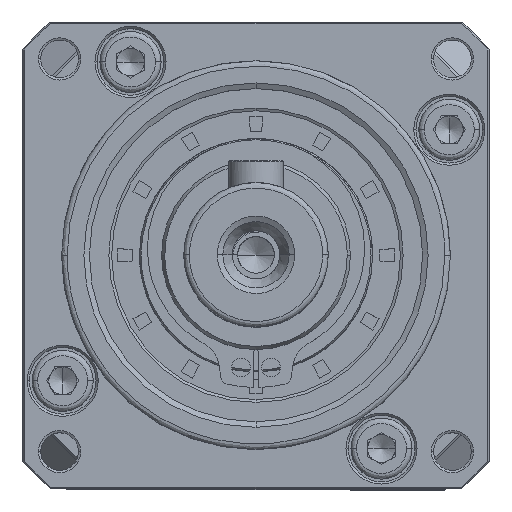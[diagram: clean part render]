
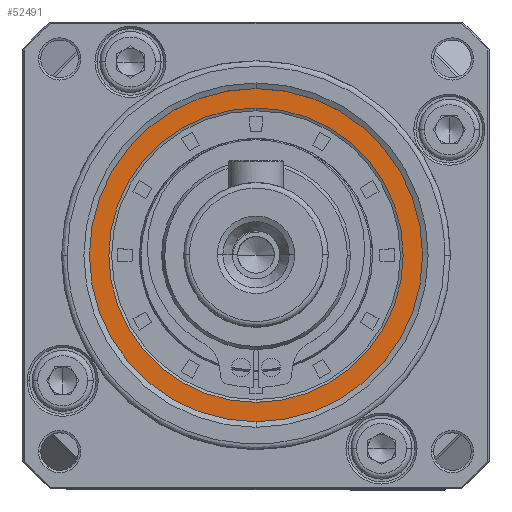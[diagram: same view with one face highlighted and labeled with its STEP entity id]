
A CAD part, top view. The second image highlights one B-rep face of the part: STEP entity #52491.
In plain terms, the highlighted planar face has unit normal (0, 0, 1).
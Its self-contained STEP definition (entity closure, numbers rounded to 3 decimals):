
#28 = CARTESIAN_POINT ( 'NONE',  ( 44.369, 25.708, 86.043 ) ) ;
#284 = CARTESIAN_POINT ( 'NONE',  ( 29.369, 25.708, 86.043 ) ) ;
#1482 = EDGE_CURVE ( 'NONE', #94590, #58060, #5186, .T. ) ;
#3234 = AXIS2_PLACEMENT_3D ( 'NONE', #13447, #117479, #54237 ) ;
#5186 = CIRCLE ( 'NONE', #58585, 13.25 ) ;
#8783 = ORIENTED_EDGE ( 'NONE', *, *, #32855, .T. ) ;
#10241 = DIRECTION ( 'NONE',  ( 0., -1., 0. ) ) ;
#10390 = CARTESIAN_POINT ( 'NONE',  ( 29.369, 25.708, 86.043 ) ) ;
#13447 = CARTESIAN_POINT ( 'NONE',  ( 29.369, 25.708, 86.043 ) ) ;
#17099 = CIRCLE ( 'NONE', #3234, 15. ) ;
#18870 = AXIS2_PLACEMENT_3D ( 'NONE', #10390, #60685, #70690 ) ;
#28493 = CARTESIAN_POINT ( 'NONE',  ( 14.369, 25.708, 86.043 ) ) ;
#32855 = EDGE_CURVE ( 'NONE', #51675, #33666, #17099, .T. ) ;
#33666 = VERTEX_POINT ( 'NONE', #28493 ) ;
#34093 = AXIS2_PLACEMENT_3D ( 'NONE', #114517, #94687, #124920 ) ;
#45206 = CIRCLE ( 'NONE', #83238, 13.25 ) ;
#51675 = VERTEX_POINT ( 'NONE', #28 ) ;
#52491 = ADVANCED_FACE ( 'NONE', ( #95321, #92148 ), #96067, .T. ) ;
#54237 = DIRECTION ( 'NONE',  ( 1., 0., 0. ) ) ;
#58060 = VERTEX_POINT ( 'NONE', #118612 ) ;
#58585 = AXIS2_PLACEMENT_3D ( 'NONE', #284, #72762, #10241 ) ;
#60685 = DIRECTION ( 'NONE',  ( 0., 0., 1. ) ) ;
#60869 = ORIENTED_EDGE ( 'NONE', *, *, #111743, .T. ) ;
#62313 = EDGE_LOOP ( 'NONE', ( #8783, #77852 ) ) ;
#70690 = DIRECTION ( 'NONE',  ( 1., 0., 0. ) ) ;
#72762 = DIRECTION ( 'NONE',  ( 0., 0., -1. ) ) ;
#77852 = ORIENTED_EDGE ( 'NONE', *, *, #86552, .T. ) ;
#79279 = DIRECTION ( 'NONE',  ( 0., 0., -1. ) ) ;
#83238 = AXIS2_PLACEMENT_3D ( 'NONE', #99163, #79279, #121597 ) ;
#86552 = EDGE_CURVE ( 'NONE', #33666, #51675, #115380, .T. ) ;
#92148 = FACE_BOUND ( 'NONE', #99919, .T. ) ;
#94590 = VERTEX_POINT ( 'NONE', #128501 ) ;
#94687 = DIRECTION ( 'NONE',  ( 0., 0., 1. ) ) ;
#95321 = FACE_OUTER_BOUND ( 'NONE', #62313, .T. ) ;
#96067 = PLANE ( 'NONE',  #34093 ) ;
#99163 = CARTESIAN_POINT ( 'NONE',  ( 29.369, 25.708, 86.043 ) ) ;
#99919 = EDGE_LOOP ( 'NONE', ( #60869, #102076 ) ) ;
#102076 = ORIENTED_EDGE ( 'NONE', *, *, #1482, .T. ) ;
#111743 = EDGE_CURVE ( 'NONE', #58060, #94590, #45206, .T. ) ;
#114517 = CARTESIAN_POINT ( 'NONE',  ( 29.369, 25.708, 86.043 ) ) ;
#115380 = CIRCLE ( 'NONE', #18870, 15. ) ;
#117479 = DIRECTION ( 'NONE',  ( 0., 0., 1. ) ) ;
#118612 = CARTESIAN_POINT ( 'NONE',  ( 29.369, 12.458, 86.043 ) ) ;
#121597 = DIRECTION ( 'NONE',  ( 0., -1., 0. ) ) ;
#124920 = DIRECTION ( 'NONE',  ( 1., 0., 0. ) ) ;
#128501 = CARTESIAN_POINT ( 'NONE',  ( 29.369, 38.958, 86.043 ) ) ;
